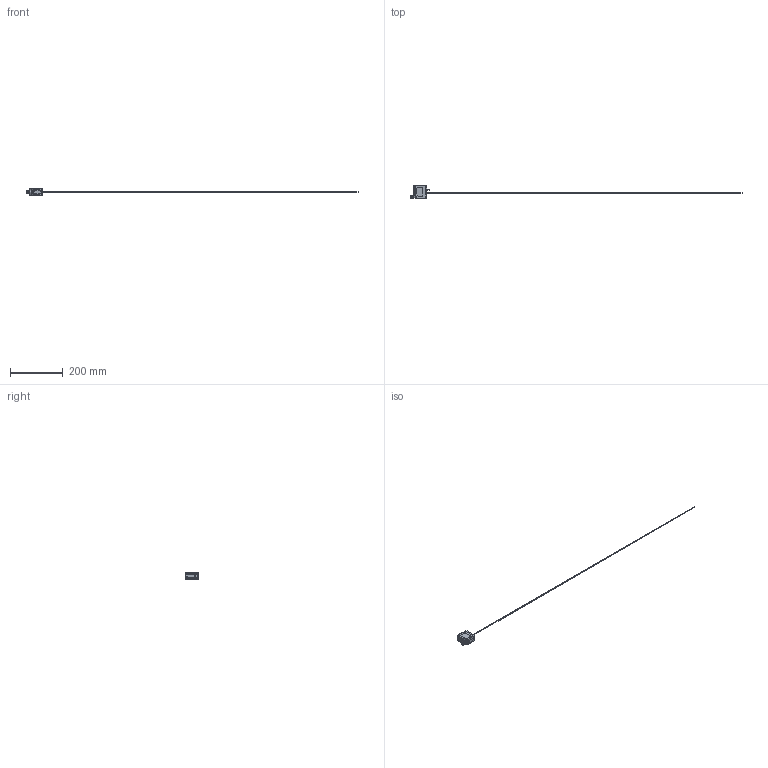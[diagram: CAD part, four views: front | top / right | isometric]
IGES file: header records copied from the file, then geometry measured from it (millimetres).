
Global section: file name: 622-21007_FT 55-RL-NS-L4; native system: Autodesk Inventor 2022; preprocessor: unknown; author: Sandra.Stahl; date: 20230126.000107; units: millimetre
Bounding box: 1262.85 x 51 x 23 mm (x, y, z)
Volume: 60548.3 mm3; surface area: 22976.6 mm2
Topology: 4 solids, 4 shells, 180 faces, 454 edges, 295 vertices
Faces by surface type: bspline 180
